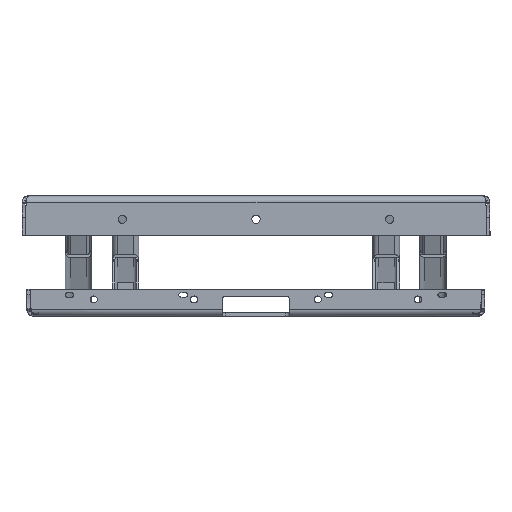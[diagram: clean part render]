
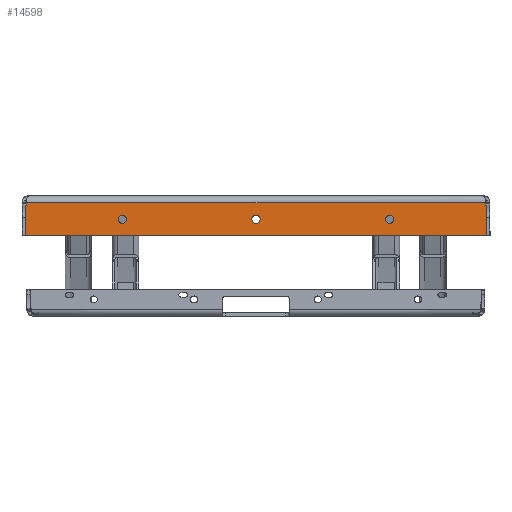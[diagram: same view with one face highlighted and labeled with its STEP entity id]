
A CAD part, left-side view. The second image highlights one B-rep face of the part: STEP entity #14598.
In plain terms, the highlighted planar face has unit normal (-1, 0, 0) as drawn and (1, 0, 0) by its records, which use the part's own axes.
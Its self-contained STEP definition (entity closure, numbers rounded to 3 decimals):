
#1417=LINE('',#27675,#2837);
#1425=LINE('',#27702,#2845);
#1427=LINE('',#27706,#2847);
#1428=LINE('',#27708,#2848);
#1429=LINE('',#27709,#2849);
#1430=LINE('',#27710,#2850);
#2837=VECTOR('',#19159,10.);
#2845=VECTOR('',#19183,10.);
#2847=VECTOR('',#19187,10.);
#2848=VECTOR('',#19188,10.);
#2849=VECTOR('',#19189,10.);
#2850=VECTOR('',#19190,10.);
#3512=PLANE('',#15897);
#3808=FACE_BOUND('',#5335,.T.);
#3809=FACE_BOUND('',#5336,.T.);
#3810=FACE_BOUND('',#5337,.T.);
#4389=FACE_OUTER_BOUND('',#5334,.T.);
#5334=EDGE_LOOP('',(#12589,#12590,#12591,#12592,#12593,#12594,#12595,#12596));
#5335=EDGE_LOOP('',(#12597));
#5336=EDGE_LOOP('',(#12598));
#5337=EDGE_LOOP('',(#12599));
#5996=CIRCLE('',#15886,1.);
#6002=CIRCLE('',#15895,1.);
#6003=CIRCLE('',#15898,6.25);
#6004=CIRCLE('',#15899,6.25);
#6005=CIRCLE('',#15900,6.25);
#7152=VERTEX_POINT('',#27662);
#7153=VERTEX_POINT('',#27663);
#7157=VERTEX_POINT('',#27673);
#7166=VERTEX_POINT('',#27695);
#7167=VERTEX_POINT('',#27696);
#7168=VERTEX_POINT('',#27701);
#7169=VERTEX_POINT('',#27705);
#7170=VERTEX_POINT('',#27707);
#7171=VERTEX_POINT('',#27711);
#7172=VERTEX_POINT('',#27713);
#7173=VERTEX_POINT('',#27715);
#9042=EDGE_CURVE('',#7152,#7153,#5996,.T.);
#9048=EDGE_CURVE('',#7157,#7152,#1417,.T.);
#9058=EDGE_CURVE('',#7166,#7167,#6002,.T.);
#9061=EDGE_CURVE('',#7167,#7168,#1425,.T.);
#9063=EDGE_CURVE('',#7157,#7169,#1427,.T.);
#9064=EDGE_CURVE('',#7169,#7170,#1428,.T.);
#9065=EDGE_CURVE('',#7170,#7168,#1429,.T.);
#9066=EDGE_CURVE('',#7153,#7166,#1430,.T.);
#9067=EDGE_CURVE('',#7171,#7171,#6003,.T.);
#9068=EDGE_CURVE('',#7172,#7172,#6004,.T.);
#9069=EDGE_CURVE('',#7173,#7173,#6005,.T.);
#12589=ORIENTED_EDGE('',*,*,#9042,.F.);
#12590=ORIENTED_EDGE('',*,*,#9048,.F.);
#12591=ORIENTED_EDGE('',*,*,#9063,.T.);
#12592=ORIENTED_EDGE('',*,*,#9064,.T.);
#12593=ORIENTED_EDGE('',*,*,#9065,.T.);
#12594=ORIENTED_EDGE('',*,*,#9061,.F.);
#12595=ORIENTED_EDGE('',*,*,#9058,.F.);
#12596=ORIENTED_EDGE('',*,*,#9066,.F.);
#12597=ORIENTED_EDGE('',*,*,#9067,.T.);
#12598=ORIENTED_EDGE('',*,*,#9068,.T.);
#12599=ORIENTED_EDGE('',*,*,#9069,.T.);
#14598=ADVANCED_FACE('',(#4389,#3808,#3809,#3810),#3512,.F.);
#15886=AXIS2_PLACEMENT_3D('',#27664,#19149,#19150);
#15895=AXIS2_PLACEMENT_3D('',#27697,#19177,#19178);
#15897=AXIS2_PLACEMENT_3D('',#27704,#19185,#19186);
#15898=AXIS2_PLACEMENT_3D('',#27712,#19191,#19192);
#15899=AXIS2_PLACEMENT_3D('',#27714,#19193,#19194);
#15900=AXIS2_PLACEMENT_3D('',#27716,#19195,#19196);
#19149=DIRECTION('center_axis',(-1.,0.,0.));
#19150=DIRECTION('ref_axis',(0.,-0.707,0.707));
#19159=DIRECTION('',(0.,0.,1.));
#19177=DIRECTION('center_axis',(-1.,0.,0.));
#19178=DIRECTION('ref_axis',(0.,0.707,0.707));
#19183=DIRECTION('',(0.,0.,-1.));
#19185=DIRECTION('center_axis',(-1.,0.,0.));
#19186=DIRECTION('ref_axis',(0.,0.,
1.));
#19187=DIRECTION('',(0.,0.129,-0.992));
#19188=DIRECTION('',(0.,1.,0.));
#19189=DIRECTION('',(0.,0.129,0.992));
#19190=DIRECTION('',(0.,1.,0.));
#19191=DIRECTION('center_axis',(-1.,0.,0.));
#19192=DIRECTION('ref_axis',(0.,0.,
-1.));
#19193=DIRECTION('center_axis',(-1.,0.,0.));
#19194=DIRECTION('ref_axis',(0.,0.,
-1.));
#19195=DIRECTION('center_axis',(-1.,0.,0.));
#19196=DIRECTION('ref_axis',(0.,0.,
-1.));
#27662=CARTESIAN_POINT('',(600.,-344.5,59.));
#27663=CARTESIAN_POINT('',(600.,-343.5,60.));
#27664=CARTESIAN_POINT('Origin',(600.,-343.5,59.));
#27673=CARTESIAN_POINT('',(600.,-344.5,19.506));
#27675=CARTESIAN_POINT('',(600.,-344.5,10.));
#27695=CARTESIAN_POINT('',(600.,343.5,60.));
#27696=CARTESIAN_POINT('',(600.,344.5,59.));
#27697=CARTESIAN_POINT('Origin',(600.,343.5,59.));
#27701=CARTESIAN_POINT('',(600.,344.5,19.506));
#27702=CARTESIAN_POINT('',(600.,344.5,10.));
#27704=CARTESIAN_POINT('Origin',(600.,0.,30.045));
#27705=CARTESIAN_POINT('',(600.,-343.266,10.));
#27706=CARTESIAN_POINT('',(600.,-342.319,2.704));
#27707=CARTESIAN_POINT('',(600.,343.266,10.));
#27708=CARTESIAN_POINT('',(600.,0.,10.));
#27709=CARTESIAN_POINT('',(600.,342.319,2.704));
#27710=CARTESIAN_POINT('',(600.,-344.5,60.));
#27711=CARTESIAN_POINT('',(600.,200.,28.75));
#27712=CARTESIAN_POINT('Origin',(600.,200.,35.));
#27713=CARTESIAN_POINT('',(600.,0.,28.75));
#27714=CARTESIAN_POINT('Origin',(600.,0.,35.));
#27715=CARTESIAN_POINT('',(600.,-200.,28.75));
#27716=CARTESIAN_POINT('Origin',(600.,-200.,35.));
